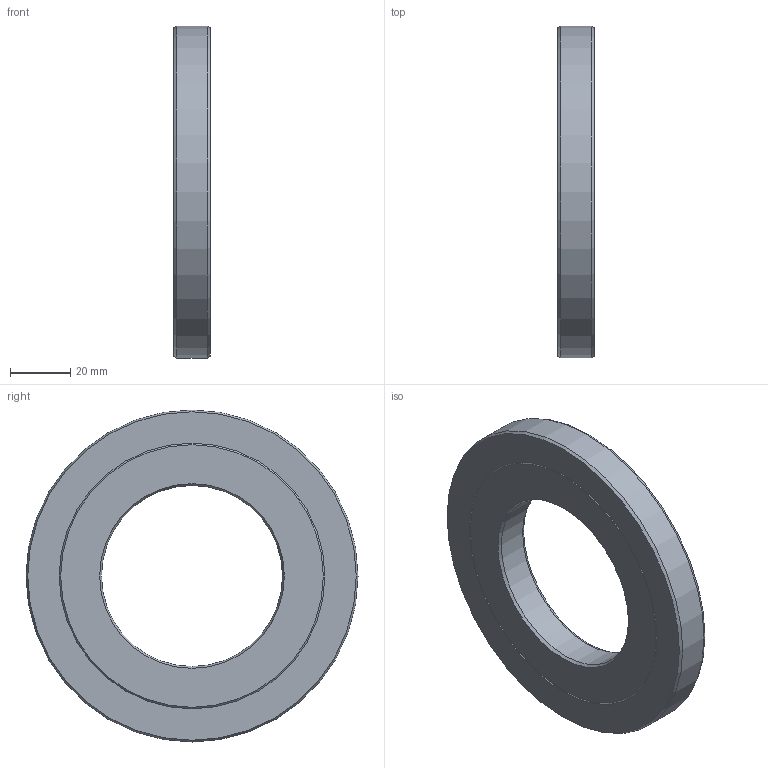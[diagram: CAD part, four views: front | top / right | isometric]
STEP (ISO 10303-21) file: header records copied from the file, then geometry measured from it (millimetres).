
FILE_DESCRIPTION(/* description */ (''),/* implementation_level */ '2;1');
FILE_NAME(/* name */ '301901 SA 60x110x12.stp',/* time_stamp */ '2016-12-16T15:10:53+01:00',/* author */ (''),/* organization */ (''),/* preprocessor_version */ 'ST-DEVELOPER v15',/* originating_system */ 'SIEMENS PLM Software NX 8.5',/* authorisation */ '');
FILE_SCHEMA (('CONFIG_CONTROL_DESIGN'));
Length unit declared in the file: millimetre
Products named in the file (1): ATE0000144_01
Bounding box: 12 x 110 x 110 mm (x, y, z)
Volume: 77866.7 mm3; surface area: 28144.1 mm2
Topology: 2 solids, 2 shells, 18 faces, 37 edges, 23 vertices
Faces by surface type: cone 10, plane 5, cylinder 3
Full cylindrical faces by diameter (mm): 60 x1, 110 x1
Entity records: 492 total; most frequent: DIRECTION 76, CARTESIAN_POINT 74, ORIENTED_EDGE 46, AXIS2_PLACEMENT_3D 38, EDGE_LOOP 33, FACE_BOUND 30, EDGE_CURVE 23, VERTEX_POINT 20
